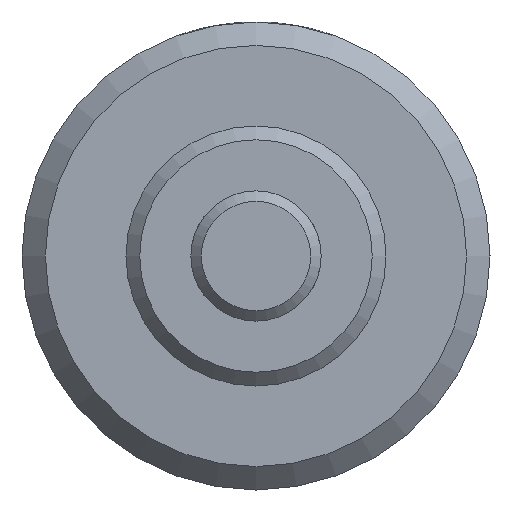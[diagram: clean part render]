
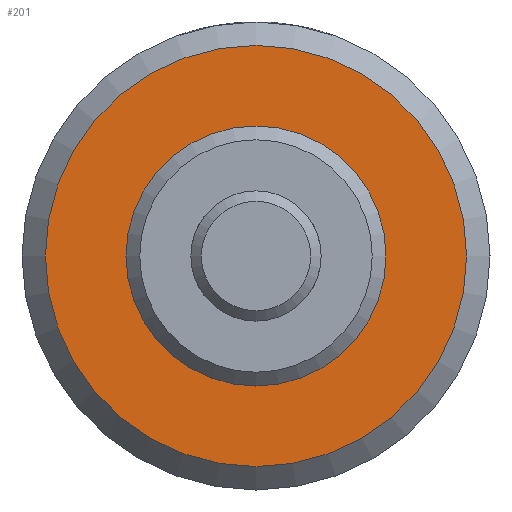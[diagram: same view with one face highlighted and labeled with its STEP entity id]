
A CAD part, left-side view. The second image highlights one B-rep face of the part: STEP entity #201.
In plain terms, the highlighted planar face has unit normal (-1, 0, 0).
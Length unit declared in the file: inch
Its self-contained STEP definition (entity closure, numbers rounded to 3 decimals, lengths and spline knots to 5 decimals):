
#201 = ADVANCED_FACE( '', ( #424, #425 ), #426, .F. );
#424 = FACE_OUTER_BOUND( '', #672, .T. );
#425 = FACE_BOUND( '', #673, .T. );
#426 = PLANE( '', #674 );
#672 = EDGE_LOOP( '', ( #1030 ) );
#673 = EDGE_LOOP( '', ( #1031 ) );
#674 = AXIS2_PLACEMENT_3D( '', #1032, #1033, #1034 );
#1030 = ORIENTED_EDGE( '', *, *, #1349, .F. );
#1031 = ORIENTED_EDGE( '', *, *, #1362, .T. );
#1032 = CARTESIAN_POINT( '', ( 0.5, 0.312, 0. ) );
#1033 = DIRECTION( '', ( 1., 0., 0. ) );
#1034 = DIRECTION( '', ( 0., 0., -1. ) );
#1349 = EDGE_CURVE( '', #1580, #1580, #1581, .T. );
#1362 = EDGE_CURVE( '', #1598, #1598, #1599, .T. );
#1580 = VERTEX_POINT( '', #1953 );
#1581 = CIRCLE( '', #1954, 0.50625 );
#1598 = VERTEX_POINT( '', #2000 );
#1599 = CIRCLE( '', #2001, 0.312 );
#1953 = CARTESIAN_POINT( '', ( 0.5, 0., -0.50625 ) );
#1954 = AXIS2_PLACEMENT_3D( '', #2276, #2277, #2278 );
#2000 = CARTESIAN_POINT( '', ( 0.5, 0., -0.312 ) );
#2001 = AXIS2_PLACEMENT_3D( '', #2291, #2292, #2293 );
#2276 = CARTESIAN_POINT( '', ( 0.5, 0., 0. ) );
#2277 = DIRECTION( '', ( 1., 0., 0. ) );
#2278 = DIRECTION( '', ( 0., 0., -1. ) );
#2291 = CARTESIAN_POINT( '', ( 0.5, 0., 0. ) );
#2292 = DIRECTION( '', ( 1., 0., 0. ) );
#2293 = DIRECTION( '', ( 0., 0., -1. ) );
